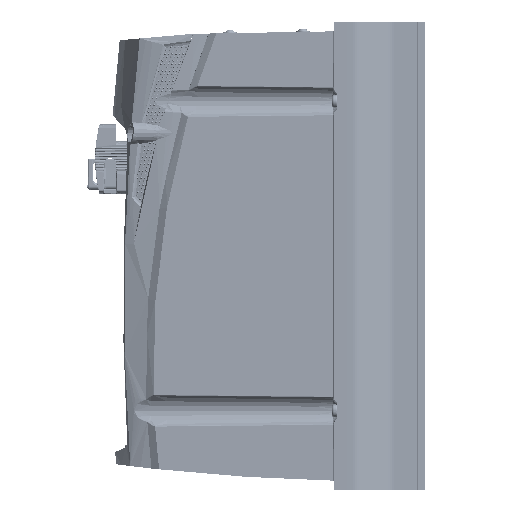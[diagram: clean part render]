
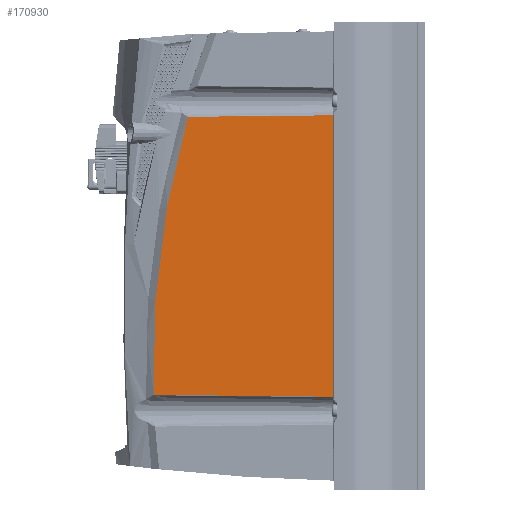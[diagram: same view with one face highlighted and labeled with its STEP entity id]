
A CAD part, left-side view. The second image highlights one B-rep face of the part: STEP entity #170930.
In plain terms, the highlighted planar face has unit normal (-1, 0.018, 0).
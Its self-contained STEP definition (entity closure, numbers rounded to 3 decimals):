
#4881 = CARTESIAN_POINT ( 'NONE',  ( -83.14, 49.251, -76.817 ) ) ;
#6943 = CARTESIAN_POINT ( 'NONE',  ( -82.183, 104.038, -76.262 ) ) ;
#7099 = FACE_OUTER_BOUND ( 'NONE', #86285, .T. ) ;
#17366 = CARTESIAN_POINT ( 'NONE',  ( -82.977, 58.582, 76.715 ) ) ;
#36676 = CARTESIAN_POINT ( 'NONE',  ( -82.364, 93.664, -76.363 ) ) ;
#37619 = B_SPLINE_CURVE_WITH_KNOTS ( 'NONE', 3,
 ( #114859, #269669, #17366, #405164 ),
 .UNSPECIFIED., .F., .F.,
 ( 4, 4 ),
 ( 0., 0.08 ),
 .UNSPECIFIED. ) ;
#40829 = CARTESIAN_POINT ( 'NONE',  ( -82.726, 72.915, -76.573 ) ) ;
#43779 = CARTESIAN_POINT ( 'NONE',  ( -82.513, 85.127, 76.449 ) ) ;
#70520 = ORIENTED_EDGE ( 'NONE', *, *, #310873, .T. ) ;
#74904 = DIRECTION ( 'NONE',  ( 0., 0., 1. ) ) ;
#81737 = CARTESIAN_POINT ( 'NONE',  ( -83.903, 5.491, -77.289 ) ) ;
#86285 = EDGE_LOOP ( 'NONE', ( #70520, #272760, #291705, #360073, #392798 ) ) ;
#97212 = VERTEX_POINT ( 'NONE', #43779 ) ;
#98212 = CARTESIAN_POINT ( 'NONE',  ( -83.903, 5.491, -77.289 ) ) ;
#114859 = CARTESIAN_POINT ( 'NONE',  ( -83.903, 5.491, 77.289 ) ) ;
#133516 = VERTEX_POINT ( 'NONE', #81737 ) ;
#136220 = CARTESIAN_POINT ( 'NONE',  ( -82.545, 83.29, -76.467 ) ) ;
#138303 = CARTESIAN_POINT ( 'NONE',  ( -83.323, 38.73, -76.928 ) ) ;
#138459 = CARTESIAN_POINT ( 'NONE',  ( -84.001, -0.087, -128.5 ) ) ;
#143341 = VERTEX_POINT ( 'NONE', #188136 ) ;
#146816 = CARTESIAN_POINT ( 'NONE',  ( -82.457, 88.34, 65.229 ) ) ;
#157020 = CARTESIAN_POINT ( 'NONE',  ( -82.183, 104.042, -76.222 ) ) ;
#168064 = CARTESIAN_POINT ( 'NONE',  ( -83.048, 54.512, -76.762 ) ) ;
#168220 = DIRECTION ( 'NONE',  ( -1., 0.017, 0. ) ) ;
#170115 = B_SPLINE_CURVE_WITH_KNOTS ( 'NONE', 3,
 ( #6943, #36676, #136220, #40829, #231673, #229593, #168064, #4881, #358855, #138303, #197779, #388508, #98212 ),
 .UNSPECIFIED., .F., .F.,
 ( 4, 3, 3, 3, 4 ),
 ( 0., 0.031, 0.05, 0.065, 0.099 ),
 .UNSPECIFIED. ) ;
#170930 = ADVANCED_FACE ( 'NONE', ( #7099 ), #399096, .T. ) ;
#179034 = EDGE_CURVE ( 'NONE', #143341, #384079, #291429, .T. ) ;
#186978 = CARTESIAN_POINT ( 'NONE',  ( -82.314, 96.547, 28.398 ) ) ;
#188136 = CARTESIAN_POINT ( 'NONE',  ( -82.183, 104.042, -76.222 ) ) ;
#197779 = CARTESIAN_POINT ( 'NONE',  ( -83.517, 27.65, -77.046 ) ) ;
#200836 = DIRECTION ( 'NONE',  ( 0., 0., 1. ) ) ;
#206736 = EDGE_CURVE ( 'NONE', #392554, #97212, #37619, .T. ) ;
#210403 = CARTESIAN_POINT ( 'NONE',  ( -82.273, 98.91, 14.19 ) ) ;
#218737 = CARTESIAN_POINT ( 'NONE',  ( -82.177, 104.388, -54.147 ) ) ;
#229593 = CARTESIAN_POINT ( 'NONE',  ( -82.941, 60.647, -76.698 ) ) ;
#231673 = CARTESIAN_POINT ( 'NONE',  ( -82.834, 66.781, -76.635 ) ) ;
#234709 = LINE ( 'NONE', #393629, #247956 ) ;
#247956 = VECTOR ( 'NONE', #200836, 1000. ) ;
#249655 = AXIS2_PLACEMENT_3D ( 'NONE', #138459, #168220, #74904 ) ;
#255709 = B_SPLINE_CURVE_WITH_KNOTS ( 'NONE', 3,
 ( #411553, #146816, #276118, #186978, #210403, #312087, #379741, #218737, #339698, #348008 ),
 .UNSPECIFIED., .F., .F.,
 ( 4, 2, 2, 2, 4 ),
 ( 0., 0.035, 0.079, 0.122, 0.155 ),
 .UNSPECIFIED. ) ;
#269669 = CARTESIAN_POINT ( 'NONE',  ( -83.44, 32.036, 76.994 ) ) ;
#272760 = ORIENTED_EDGE ( 'NONE', *, *, #385145, .T. ) ;
#276118 = CARTESIAN_POINT ( 'NONE',  ( -82.408, 91.157, 53.895 ) ) ;
#286335 = CARTESIAN_POINT ( 'NONE',  ( -82.183, 104.041, -76.235 ) ) ;
#288427 = CARTESIAN_POINT ( 'NONE',  ( -82.183, 104.038, -76.262 ) ) ;
#291429 = B_SPLINE_CURVE_WITH_KNOTS ( 'NONE', 3,
 ( #157020, #286335, #415522, #288427 ),
 .UNSPECIFIED., .F., .F.,
 ( 4, 4 ),
 ( 0., 0. ),
 .UNSPECIFIED. ) ;
#291705 = ORIENTED_EDGE ( 'NONE', *, *, #206736, .T. ) ;
#310873 = EDGE_CURVE ( 'NONE', #384079, #133516, #170115, .T. ) ;
#312087 = CARTESIAN_POINT ( 'NONE',  ( -82.212, 102.394, -14.376 ) ) ;
#339698 = CARTESIAN_POINT ( 'NONE',  ( -82.177, 104.399, -65.19 ) ) ;
#340049 = CARTESIAN_POINT ( 'NONE',  ( -83.903, 5.491, 77.289 ) ) ;
#348008 = CARTESIAN_POINT ( 'NONE',  ( -82.183, 104.042, -76.222 ) ) ;
#358855 = CARTESIAN_POINT ( 'NONE',  ( -83.231, 43.99, -76.872 ) ) ;
#360073 = ORIENTED_EDGE ( 'NONE', *, *, #410977, .T. ) ;
#378471 = CARTESIAN_POINT ( 'NONE',  ( -82.183, 104.038, -76.262 ) ) ;
#379741 = CARTESIAN_POINT ( 'NONE',  ( -82.192, 103.514, -28.736 ) ) ;
#384079 = VERTEX_POINT ( 'NONE', #378471 ) ;
#385145 = EDGE_CURVE ( 'NONE', #133516, #392554, #234709, .T. ) ;
#388508 = CARTESIAN_POINT ( 'NONE',  ( -83.71, 16.571, -77.166 ) ) ;
#392554 = VERTEX_POINT ( 'NONE', #340049 ) ;
#392798 = ORIENTED_EDGE ( 'NONE', *, *, #179034, .T. ) ;
#393629 = CARTESIAN_POINT ( 'NONE',  ( -83.903, 5.491, -128.5 ) ) ;
#399096 = PLANE ( 'NONE',  #249655 ) ;
#405164 = CARTESIAN_POINT ( 'NONE',  ( -82.513, 85.127, 76.449 ) ) ;
#410977 = EDGE_CURVE ( 'NONE', #97212, #143341, #255709, .T. ) ;
#411553 = CARTESIAN_POINT ( 'NONE',  ( -82.513, 85.127, 76.449 ) ) ;
#415522 = CARTESIAN_POINT ( 'NONE',  ( -82.183, 104.04, -76.249 ) ) ;
